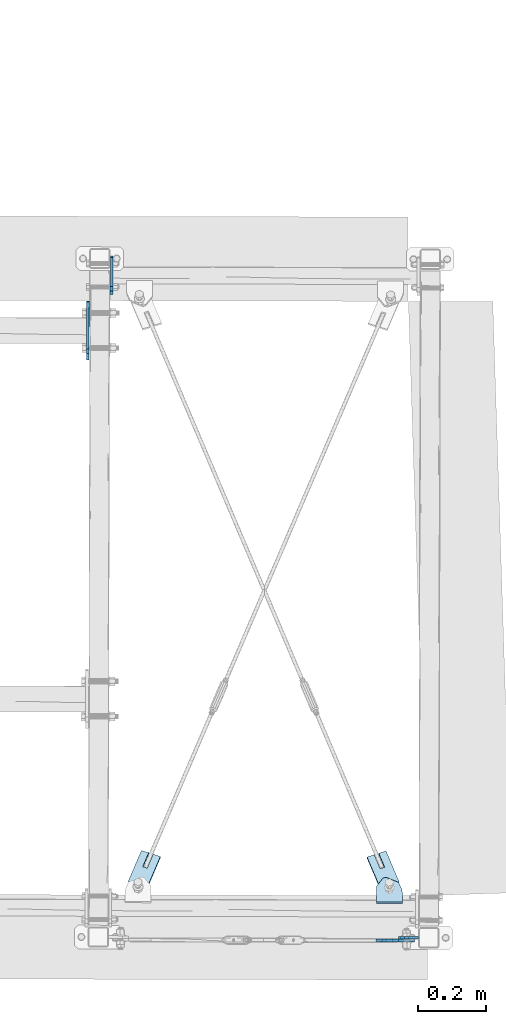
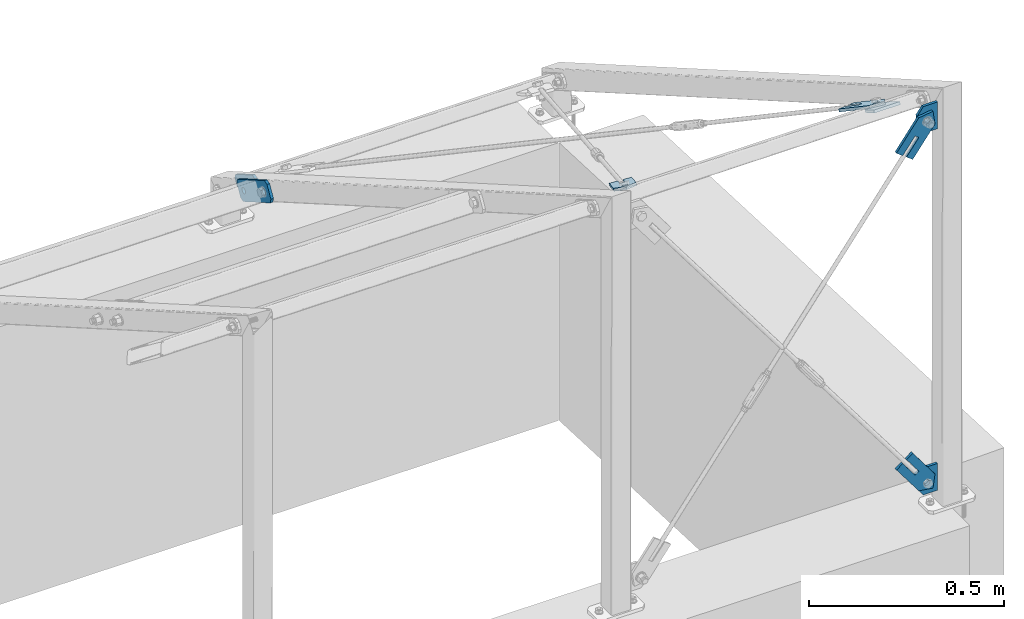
# One storey, part 44 of 288: 9 plates, 36 openings.
"""IFC2X3 building model written with IfcOpenShell, lengths in millimetres."""

from ifc_helpers import new_model, entity, si_unit, converted_unit, point, frame, frame_2d, origin, origin_with_axes, origin_2d_with_axis, place, context, project, spatial, polyline, circle_curve, line_curve, trimmed, segment, composite_curve, circle, outline, extrude, material, layer, layer_set, element, save


model = new_model("IFC2X3")

# Units and contexts
model_context = context("Model", 3, precision=1e-09, world=origin_with_axes())
ifc_project = project(units=[si_unit("LENGTHUNIT", "METRE", prefix="MILLI"), si_unit("AREAUNIT", "SQUARE_METRE"), si_unit("VOLUMEUNIT", "CUBIC_METRE"), converted_unit("PLANEANGLEUNIT", "DEGREE", entity("IfcPlaneAngleMeasure", 0.01745329), si_unit("PLANEANGLEUNIT", "RADIAN"), dimensions=[0, 0, 0, 0, 0, 0, 0])], contexts=[model_context])

# Site, building, storey
site_placement = place(None, origin_with_axes())
site = spatial("IfcSite", under=ifc_project, at=site_placement, Name="Remont ?wietlik?w nad MC w NCPP w Opolu", CompositionType="ELEMENT")
building_placement = place(site_placement, origin_with_axes())
building = spatial("IfcBuilding", under=site, at=building_placement, Name="Konstrukcja 1", CompositionType="ELEMENT")
storey_placement = place(building_placement, origin_with_axes())
storey = spatial("IfcBuildingStorey", under=building, at=storey_placement, Name="Default Storey", CompositionType="ELEMENT", Elevation=0.0)

# Plate, openings
ifc_material = material(Name="S235")
ifc_layer = layer(ifc_material, 8.0)
ifc_layer_set = layer_set([ifc_layer], Name="S235")
plate_1_placement = place(None, frame((10150.475714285, 1750.265588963, 151.0081299), z_axis=(0.999997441, -0.002262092, 1.05e-07), x_axis=(0.001959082, 0.866023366, -0.499999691)))
plate_1 = element("IfcPlate", 1, at=plate_1_placement, inside=storey, material=ifc_layer_set, Name="-", ObjectType="-", context=model_context, shape_type="SweptSolid", body=[
    extrude(outline(polyline([(0.0, 0.0), (120.0, 0.0), (120.0, 40.0), (0.0, 40.0), (0.0, 0.0)])), origin_with_axes(), (0.0, 0.0, 1.0), 8.0),
])
opening_1_placement = place(plate_1_placement, frame((0.0, 0.0, -0.01), z_axis=(0.0, 0.0, 1.0), x_axis=(1.0, 0.0, 0.0)))
element("IfcOpeningElement", 2, at=opening_1_placement, cuts=plate_1, ObjectType="Opening", context=model_context, shape_type="SweptSolid", body=[
    extrude(outline(composite_curve([segment(trimmed(line_curve((0.0, 40.0), (0.0, -1.0), 10.0), [point((0.0, 40.0))], [point((0.0, 30.0))], True, "CARTESIAN"), True, "CONTINUOUS"), segment(trimmed(circle_curve(frame_2d((10.0, 30.0), x_axis=(-1.0, 0.0)), 10.0), [point((0.0, 30.0))], [point((10.0, 40.0))], False, "CARTESIAN"), True, "CONTINUOUS"), segment(trimmed(line_curve((10.0, 40.0), (-1.0, 0.0), 10.0), [point((10.0, 40.0))], [point((0.0, 40.0))], True, "CARTESIAN"), True, "CONTINUOUS")], self_intersect=False)), origin(), (0.0, 0.0, 1.0), 8.02),
])
opening_2_placement = place(plate_1_placement, frame((0.0, 0.0, -0.01), z_axis=(0.0, 0.0, 1.0), x_axis=(1.0, 0.0, 0.0)))
element("IfcOpeningElement", 3, at=opening_2_placement, cuts=plate_1, ObjectType="Opening", context=model_context, shape_type="SweptSolid", body=[
    extrude(outline(composite_curve([segment(trimmed(line_curve((0.0, 0.0), (1.0, 0.0), 10.0), [point((0.0, 0.0))], [point((10.0, 0.0))], True, "CARTESIAN"), True, "CONTINUOUS"), segment(trimmed(circle_curve(frame_2d((10.0, 10.0), x_axis=(-1.0, 0.0)), 10.0), [point((10.0, 0.0))], [point((0.0, 10.0))], False, "CARTESIAN"), True, "CONTINUOUS"), segment(trimmed(line_curve((0.0, 10.0), (0.0, -1.0), 10.0), [point((0.0, 10.0))], [point((0.0, 0.0))], True, "CARTESIAN"), True, "CONTINUOUS")], self_intersect=False)), origin(), (0.0, 0.0, 1.0), 8.02),
])
opening_3_placement = place(plate_1_placement, frame((0.0, 0.0, -0.01), z_axis=(0.0, 0.0, 1.0), x_axis=(1.0, 0.0, 0.0)))
element("IfcOpeningElement", 4, at=opening_3_placement, cuts=plate_1, ObjectType="Opening", context=model_context, shape_type="SweptSolid", body=[
    extrude(outline(composite_curve([segment(trimmed(line_curve((120.0, 40.0), (-1.0, 0.0), 10.0), [point((120.0, 40.0))], [point((110.0, 40.0))], True, "CARTESIAN"), True, "CONTINUOUS"), segment(trimmed(circle_curve(frame_2d((110.0, 30.0), x_axis=(-1.0, 0.0)), 10.0), [point((110.0, 40.0))], [point((120.0, 30.0))], False, "CARTESIAN"), True, "CONTINUOUS"), segment(trimmed(line_curve((120.0, 30.0), (0.0, 1.0), 10.0), [point((120.0, 30.0))], [point((120.0, 40.0))], True, "CARTESIAN"), True, "CONTINUOUS")], self_intersect=False)), origin(), (0.0, 0.0, 1.0), 8.02),
])
opening_4_placement = place(plate_1_placement, frame((0.0, 0.0, -0.01), z_axis=(0.0, 0.0, 1.0), x_axis=(1.0, 0.0, 0.0)))
element("IfcOpeningElement", 5, at=opening_4_placement, cuts=plate_1, ObjectType="Opening", context=model_context, shape_type="SweptSolid", body=[
    extrude(outline(composite_curve([segment(trimmed(line_curve((120.0, 0.0), (0.0, 1.0), 10.0), [point((120.0, 0.0))], [point((120.0, 10.0))], True, "CARTESIAN"), True, "CONTINUOUS"), segment(trimmed(circle_curve(frame_2d((110.0, 10.0), x_axis=(-1.0, 0.0)), 10.0), [point((120.0, 10.0))], [point((110.0, 0.0))], False, "CARTESIAN"), True, "CONTINUOUS"), segment(trimmed(line_curve((110.0, 0.0), (1.0, 0.0), 10.0), [point((110.0, 0.0))], [point((120.0, 0.0))], True, "CARTESIAN"), True, "CONTINUOUS")], self_intersect=False)), origin(), (0.0, 0.0, 1.0), 8.02),
])
opening_5_placement = place(plate_1_placement, frame((60.0, 20.0, 8.5), z_axis=(0.0, 0.0, -1.0), x_axis=(-1.0, 0.0, 0.0)))
element("IfcOpeningElement", 6, at=opening_5_placement, cuts=plate_1, ObjectType="Opening", context=model_context, shape_type="SweptSolid", body=[
    extrude(circle(Radius=7.001, at=frame_2d((40.0, 0.0), x_axis=(1.0, 0.0))), origin(), (0.0, 0.0, 1.0), 9.0),
])
opening_6_placement = place(plate_1_placement, frame((60.0, 20.0, 8.5), z_axis=(0.0, 0.0, -1.0), x_axis=(-1.0, 0.0, 0.0)))
element("IfcOpeningElement", 7, at=opening_6_placement, cuts=plate_1, ObjectType="Opening", context=model_context, shape_type="SweptSolid", body=[
    extrude(circle(Radius=7.001, at=frame_2d((-40.0, 0.0), x_axis=(1.0, 0.0))), origin(), (0.0, 0.0, 1.0), 9.0),
])

plate_2_placement = place(None, frame((10080.034570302, 1586.020162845, 304.944274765), z_axis=(-0.999997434, 0.001134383, -0.001960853), x_axis=(0.001962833, 0.86602336, -0.499999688)))
plate_2 = element("IfcPlate", 8, at=plate_2_placement, inside=storey, material=ifc_layer_set, Name="-", ObjectType="-", context=model_context, shape_type="SweptSolid", body=[
    extrude(outline(polyline([(0.0, 0.0), (180.0, 0.0), (180.0, 60.0), (0.0, 60.0), (0.0, 0.0)])), origin_with_axes(), (0.0, 0.0, -1.0), 8.0),
])
opening_7_placement = place(plate_2_placement, frame((0.0, 0.0, 0.01), z_axis=(0.0, 0.0, 1.0), x_axis=(1.0, 0.0, 0.0)))
element("IfcOpeningElement", 9, at=opening_7_placement, cuts=plate_2, ObjectType="Opening", context=model_context, shape_type="SweptSolid", body=[
    extrude(outline(composite_curve([segment(trimmed(line_curve((0.0, 0.0), (1.0, 0.0), 10.0), [point((0.0, 0.0))], [point((10.0, 0.0))], True, "CARTESIAN"), True, "CONTINUOUS"), segment(trimmed(circle_curve(frame_2d((10.0, 10.0), x_axis=(-1.0, 0.0)), 10.0), [point((10.0, 0.0))], [point((0.0, 10.0))], False, "CARTESIAN"), True, "CONTINUOUS"), segment(trimmed(line_curve((0.0, 10.0), (0.0, -1.0), 10.0), [point((0.0, 10.0))], [point((0.0, 0.0))], True, "CARTESIAN"), True, "CONTINUOUS")], self_intersect=False)), origin(), (0.0, 0.0, -1.0), 8.02),
])
opening_8_placement = place(plate_2_placement, frame((0.0, 60.0, 0.01), z_axis=(0.0, 0.0, 1.0), x_axis=(0.0, -1.0, 0.0)))
element("IfcOpeningElement", 10, at=opening_8_placement, cuts=plate_2, ObjectType="Opening", context=model_context, shape_type="SweptSolid", body=[
    extrude(outline(composite_curve([segment(trimmed(line_curve((0.0, 0.0), (1.0, 0.0), 10.0), [point((0.0, 0.0))], [point((10.0, 0.0))], True, "CARTESIAN"), True, "CONTINUOUS"), segment(trimmed(circle_curve(frame_2d((10.0, 10.0), x_axis=(-1.0, 0.0)), 10.0), [point((10.0, 0.0))], [point((0.0, 10.0))], False, "CARTESIAN"), True, "CONTINUOUS"), segment(trimmed(line_curve((0.0, 10.0), (0.0, -1.0), 10.0), [point((0.0, 10.0))], [point((0.0, 0.0))], True, "CARTESIAN"), True, "CONTINUOUS")], self_intersect=False)), origin(), (0.0, 0.0, -1.0), 8.02),
])
opening_9_placement = place(plate_2_placement, frame((180.0, 0.0, 0.01), z_axis=(0.0, 0.0, 1.0), x_axis=(0.0, 1.0, 0.0)))
element("IfcOpeningElement", 11, at=opening_9_placement, cuts=plate_2, ObjectType="Opening", context=model_context, shape_type="SweptSolid", body=[
    extrude(outline(composite_curve([segment(trimmed(line_curve((0.0, 0.0), (1.0, 0.0), 10.0), [point((0.0, 0.0))], [point((10.0, 0.0))], True, "CARTESIAN"), True, "CONTINUOUS"), segment(trimmed(circle_curve(frame_2d((10.0, 10.0), x_axis=(-1.0, 0.0)), 10.0), [point((10.0, 0.0))], [point((0.0, 10.0))], False, "CARTESIAN"), True, "CONTINUOUS"), segment(trimmed(line_curve((0.0, 10.0), (0.0, -1.0), 10.0), [point((0.0, 10.0))], [point((0.0, 0.0))], True, "CARTESIAN"), True, "CONTINUOUS")], self_intersect=False)), origin(), (0.0, 0.0, -1.0), 8.02),
])
opening_10_placement = place(plate_2_placement, frame((180.0, 60.0, 0.01), z_axis=(0.0, 0.0, 1.0), x_axis=(-1.0, 0.0, 0.0)))
element("IfcOpeningElement", 12, at=opening_10_placement, cuts=plate_2, ObjectType="Opening", context=model_context, shape_type="SweptSolid", body=[
    extrude(outline(composite_curve([segment(trimmed(line_curve((0.0, 0.0), (1.0, 0.0), 10.0), [point((0.0, 0.0))], [point((10.0, 0.0))], True, "CARTESIAN"), True, "CONTINUOUS"), segment(trimmed(circle_curve(frame_2d((10.0, 10.0), x_axis=(-1.0, 0.0)), 10.0), [point((10.0, 0.0))], [point((0.0, 10.0))], False, "CARTESIAN"), True, "CONTINUOUS"), segment(trimmed(line_curve((0.0, 10.0), (0.0, -1.0), 10.0), [point((0.0, 10.0))], [point((0.0, 0.0))], True, "CARTESIAN"), True, "CONTINUOUS")], self_intersect=False)), origin(), (0.0, 0.0, -1.0), 8.02),
])
opening_11_placement = place(plate_2_placement, frame((90.0, 30.0, -8.5), z_axis=(0.0, 0.0, 1.0), x_axis=(-1.0, 0.0, 0.0)))
element("IfcOpeningElement", 13, at=opening_11_placement, cuts=plate_2, ObjectType="Opening", context=model_context, shape_type="SweptSolid", body=[
    extrude(circle(Radius=9.001, at=frame_2d((60.0, 0.0), x_axis=(1.0, 0.0))), origin(), (0.0, 0.0, 1.0), 9.0),
])
opening_12_placement = place(plate_2_placement, frame((90.0, 30.0, -8.5), z_axis=(0.0, 0.0, 1.0), x_axis=(-1.0, 0.0, 0.0)))
element("IfcOpeningElement", 14, at=opening_12_placement, cuts=plate_2, ObjectType="Opening", context=model_context, shape_type="SweptSolid", body=[
    extrude(circle(Radius=9.001, at=frame_2d((-60.0, 0.0), x_axis=(1.0, 0.0))), origin(), (0.0, 0.0, 1.0), 9.0),
])

plate_3_placement = place(None, frame((10938.205478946, -153.66082984, 1149.786149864), z_axis=(-0.002246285, -0.999997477, 0.0), x_axis=(0.800610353, -0.001798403, -0.599182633)))
plate_3 = element("IfcPlate", 15, at=plate_3_placement, inside=storey, material=ifc_layer_set, Name="Tab_Plate#2", ObjectType="Tab_Plate#2", context=model_context, shape_type="SweptSolid", body=[
    extrude(outline(polyline([(0.0, 0.0), (60.0, 0.0), (60.0, 140.0), (0.0, 140.0), (0.0, 0.0)])), origin_with_axes(), (0.0, 0.0, 1.0), 8.0),
])
opening_13_placement = place(plate_3_placement, frame((0.0, 0.0, -0.01), z_axis=(0.0, 0.0, 1.0), x_axis=(1.0, 0.0, 0.0)))
element("IfcOpeningElement", 16, at=opening_13_placement, cuts=plate_3, ObjectType="Opening", context=model_context, shape_type="SweptSolid", body=[
    extrude(outline(composite_curve([segment(trimmed(line_curve((60.0, 140.0), (-1.0, 0.0), 30.0), [point((60.0, 140.0))], [point((30.0, 140.0))], True, "CARTESIAN"), True, "CONTINUOUS"), segment(trimmed(circle_curve(frame_2d((30.0, 110.0), x_axis=(-1.0, 0.0)), 30.0), [point((30.0, 140.0))], [point((60.0, 110.0))], False, "CARTESIAN"), True, "CONTINUOUS"), segment(trimmed(line_curve((60.0, 110.0), (0.0, 1.0), 30.0), [point((60.0, 110.0))], [point((60.0, 140.0))], True, "CARTESIAN"), True, "CONTINUOUS")], self_intersect=False)), origin(), (0.0, 0.0, 1.0), 8.02),
])
opening_14_placement = place(plate_3_placement, frame((0.0, 0.0, -0.01), z_axis=(0.0, 0.0, 1.0), x_axis=(1.0, 0.0, 0.0)))
element("IfcOpeningElement", 17, at=opening_14_placement, cuts=plate_3, ObjectType="Opening", context=model_context, shape_type="SweptSolid", body=[
    extrude(outline(composite_curve([segment(trimmed(line_curve((0.0, 140.0), (0.0, -1.0), 30.0), [point((0.0, 140.0))], [point((0.0, 110.0))], True, "CARTESIAN"), True, "CONTINUOUS"), segment(trimmed(circle_curve(frame_2d((30.0, 110.0), x_axis=(-1.0, 0.0)), 30.0), [point((0.0, 110.0))], [point((30.0, 140.0))], False, "CARTESIAN"), True, "CONTINUOUS"), segment(trimmed(line_curve((30.0, 140.0), (-1.0, 0.0), 30.0), [point((30.0, 140.0))], [point((0.0, 140.0))], True, "CARTESIAN"), True, "CONTINUOUS")], self_intersect=False)), origin(), (0.0, 0.0, 1.0), 8.02),
])
opening_15_placement = place(plate_3_placement, frame((0.0, 0.0, 8.1), z_axis=(0.0, 0.0, -1.0), x_axis=(-0.800612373, -0.599182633, 0.0)))
element("IfcOpeningElement", 18, at=opening_15_placement, cuts=plate_3, ObjectType="Opening", context=model_context, shape_type="SweptSolid", body=[
    extrude(outline(polyline([(-54.964023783, 35.057553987), (-66.174198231, 26.667798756), (-29.622859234, -22.171157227), (-18.412684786, -13.781401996), (-54.964023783, 35.057553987)])), origin(), (0.0, 0.0, 1.0), 8.2),
])
opening_16_placement = place(plate_3_placement, frame((30.0, 110.0, 8.5), z_axis=(0.0, 0.0, -1.0), x_axis=(0.0, -1.0, 0.0)))
element("IfcOpeningElement", 19, at=opening_16_placement, cuts=plate_3, ObjectType="Opening", context=model_context, shape_type="SweptSolid", body=[
    extrude(circle(Radius=9.001, at=origin_2d_with_axis()), origin(), (0.0, 0.0, 1.0), 9.0),
])

plate_4_placement = place(None, frame((11034.17658987, -153.876408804, 1177.884181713), z_axis=(0.002246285, 0.999997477, 0.0), x_axis=(-0.800610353, 0.001798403, 0.599182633)))
plate_4 = element("IfcPlate", 20, at=plate_4_placement, inside=storey, material=ifc_layer_set, Name="Gusset#2", ObjectType="Gusset#2", context=model_context, shape_type="SweptSolid", body=[
    extrude(outline(polyline([(0.0, 0.0), (60.0, 0.0), (60.0, 60.0), (26.379153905, 85.162023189), (-23.944817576, 17.920431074), (0.0, 0.0)])), origin_with_axes(), (0.0, 0.0, 1.0), 8.0),
])
opening_17_placement = place(plate_4_placement, frame((30.0, 30.0, -0.5), z_axis=(0.0, 0.0, 1.0), x_axis=(0.0, -1.0, 0.0)))
element("IfcOpeningElement", 21, at=opening_17_placement, cuts=plate_4, ObjectType="Opening", context=model_context, shape_type="SweptSolid", body=[
    extrude(circle(Radius=9.001, at=origin_2d_with_axis()), origin(), (0.0, 0.0, 1.0), 9.0),
])
opening_18_placement = place(plate_4_placement, frame((0.0, 0.0, -0.01), z_axis=(0.0, 0.0, 1.0), x_axis=(1.0, 0.0, 0.0)))
element("IfcOpeningElement", 22, at=opening_18_placement, cuts=plate_4, ObjectType="Opening", context=model_context, shape_type="SweptSolid", body=[
    extrude(outline(composite_curve([segment(trimmed(line_curve((60.0, 0.0), (0.0, 1.0), 30.0), [point((60.0, 0.0))], [point((60.0, 30.0))], True, "CARTESIAN"), True, "CONTINUOUS"), segment(trimmed(circle_curve(frame_2d((30.0, 30.0), x_axis=(-1.0, 0.0)), 30.0), [point((60.0, 30.0))], [point((30.0, 0.0))], False, "CARTESIAN"), True, "CONTINUOUS"), segment(trimmed(line_curve((30.0, 0.0), (1.0, 0.0), 30.0), [point((30.0, 0.0))], [point((60.0, 0.0))], True, "CARTESIAN"), True, "CONTINUOUS")], self_intersect=False)), origin(), (0.0, 0.0, 1.0), 8.02),
])

plate_5_placement = place(None, frame((10938.187360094, -161.671233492, 158.213850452), z_axis=(0.002277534, 0.999997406, 0.0), x_axis=(0.800610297, -0.001823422, 0.599182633)))
plate_5 = element("IfcPlate", 23, at=plate_5_placement, inside=storey, material=ifc_layer_set, Name="Tab_Plate#1", ObjectType="Tab_Plate#1", context=model_context, shape_type="SweptSolid", body=[
    extrude(outline(polyline([(0.0, 0.0), (60.0, 0.0), (60.0, 140.0), (0.0, 140.0), (0.0, 0.0)])), origin_with_axes(), (0.0, 0.0, 1.0), 8.0),
])
opening_19_placement = place(plate_5_placement, frame((0.0, 0.0, -0.01), z_axis=(0.0, 0.0, 1.0), x_axis=(1.0, 0.0, 0.0)))
element("IfcOpeningElement", 24, at=opening_19_placement, cuts=plate_5, ObjectType="Opening", context=model_context, shape_type="SweptSolid", body=[
    extrude(outline(composite_curve([segment(trimmed(line_curve((60.0, 140.0), (-1.0, 0.0), 30.0), [point((60.0, 140.0))], [point((30.0, 140.0))], True, "CARTESIAN"), True, "CONTINUOUS"), segment(trimmed(circle_curve(frame_2d((30.0, 110.0), x_axis=(-1.0, 0.0)), 30.0), [point((30.0, 140.0))], [point((60.0, 110.0))], False, "CARTESIAN"), True, "CONTINUOUS"), segment(trimmed(line_curve((60.0, 110.0), (0.0, 1.0), 30.0), [point((60.0, 110.0))], [point((60.0, 140.0))], True, "CARTESIAN"), True, "CONTINUOUS")], self_intersect=False)), origin(), (0.0, 0.0, 1.0), 8.02),
])
opening_20_placement = place(plate_5_placement, frame((0.0, 0.0, -0.01), z_axis=(0.0, 0.0, 1.0), x_axis=(1.0, 0.0, 0.0)))
element("IfcOpeningElement", 25, at=opening_20_placement, cuts=plate_5, ObjectType="Opening", context=model_context, shape_type="SweptSolid", body=[
    extrude(outline(composite_curve([segment(trimmed(line_curve((0.0, 140.0), (0.0, -1.0), 30.0), [point((0.0, 140.0))], [point((0.0, 110.0))], True, "CARTESIAN"), True, "CONTINUOUS"), segment(trimmed(circle_curve(frame_2d((30.0, 110.0), x_axis=(-1.0, 0.0)), 30.0), [point((0.0, 110.0))], [point((30.0, 140.0))], False, "CARTESIAN"), True, "CONTINUOUS"), segment(trimmed(line_curve((30.0, 140.0), (-1.0, 0.0), 30.0), [point((30.0, 140.0))], [point((0.0, 140.0))], True, "CARTESIAN"), True, "CONTINUOUS")], self_intersect=False)), origin(), (0.0, 0.0, 1.0), 8.02),
])
opening_21_placement = place(plate_5_placement, frame((0.0, 0.0, 8.1), z_axis=(0.0, 0.0, -1.0), x_axis=(0.800612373, 0.599182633, 0.0)))
element("IfcOpeningElement", 26, at=opening_21_placement, cuts=plate_5, ObjectType="Opening", context=model_context, shape_type="SweptSolid", body=[
    extrude(outline(polyline([(54.964023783, -35.057553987), (66.174198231, -26.667798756), (29.622859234, 22.171157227), (18.412684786, 13.781401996), (54.964023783, -35.057553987)])), origin(), (0.0, 0.0, 1.0), 8.2),
])
opening_22_placement = place(plate_5_placement, frame((30.0, 110.0, 8.5), z_axis=(0.0, 0.0, -1.0), x_axis=(0.0, -1.0, 0.0)))
element("IfcOpeningElement", 27, at=opening_22_placement, cuts=plate_5, ObjectType="Opening", context=model_context, shape_type="SweptSolid", body=[
    extrude(circle(Radius=9.001, at=origin_2d_with_axis()), origin(), (0.0, 0.0, 1.0), 9.0),
])

plate_6_placement = place(None, frame((11034.194904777, -145.889853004, 130.115818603), z_axis=(-0.002277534, -0.999997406, 0.0), x_axis=(-0.800610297, 0.001823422, -0.599182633)))
plate_6 = element("IfcPlate", 28, at=plate_6_placement, inside=storey, material=ifc_layer_set, Name="Gusset#1", ObjectType="Gusset#1", context=model_context, shape_type="SweptSolid", body=[
    extrude(outline(polyline([(0.0, 0.0), (60.0, 0.0), (60.0, 60.0), (26.379354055, 85.161873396), (-23.944617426, 17.920281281), (0.0, 0.0)])), origin_with_axes(), (0.0, 0.0, 1.0), 8.0),
])
opening_23_placement = place(plate_6_placement, frame((30.0, 30.0, -0.5), z_axis=(0.0, 0.0, 1.0), x_axis=(0.0, -1.0, 0.0)))
element("IfcOpeningElement", 29, at=opening_23_placement, cuts=plate_6, ObjectType="Opening", context=model_context, shape_type="SweptSolid", body=[
    extrude(circle(Radius=9.001, at=origin_2d_with_axis()), origin(), (0.0, 0.0, 1.0), 9.0),
])
opening_24_placement = place(plate_6_placement, frame((0.0, 0.0, -0.01), z_axis=(0.0, 0.0, 1.0), x_axis=(1.0, 0.0, 0.0)))
element("IfcOpeningElement", 30, at=opening_24_placement, cuts=plate_6, ObjectType="Opening", context=model_context, shape_type="SweptSolid", body=[
    extrude(outline(composite_curve([segment(trimmed(line_curve((60.0, 0.0), (0.0, 1.0), 30.0), [point((60.0, 0.0))], [point((60.0, 30.0))], True, "CARTESIAN"), True, "CONTINUOUS"), segment(trimmed(circle_curve(frame_2d((30.0, 30.0), x_axis=(-1.0, 0.0)), 30.0), [point((60.0, 30.0))], [point((30.0, 0.0))], False, "CARTESIAN"), True, "CONTINUOUS"), segment(trimmed(line_curve((30.0, 0.0), (1.0, 0.0), 30.0), [point((30.0, 0.0))], [point((60.0, 0.0))], True, "CARTESIAN"), True, "CONTINUOUS")], self_intersect=False)), origin(), (0.0, 0.0, 1.0), 8.02),
])

plate_7_placement = place(None, frame((10243.045135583, 108.908656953, 1135.472697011), z_axis=(-0.001127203, -0.499998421, -0.866025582), x_axis=(0.937108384, -0.302803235, 0.173603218)))
plate_7 = element("IfcPlate", 31, at=plate_7_placement, inside=storey, material=ifc_layer_set, Name="Tab_Plate#1", ObjectType="Tab_Plate#1", context=model_context, shape_type="SweptSolid", body=[
    extrude(outline(polyline([(0.0, 0.0), (60.0, 0.0), (60.0, 140.0), (0.0, 140.0), (0.0, 0.0)])), origin_with_axes(), (0.0, 0.0, 1.0), 8.0),
])
opening_25_placement = place(plate_7_placement, frame((0.0, 0.0, -0.01), z_axis=(0.0, 0.0, 1.0), x_axis=(1.0, 0.0, 0.0)))
element("IfcOpeningElement", 32, at=opening_25_placement, cuts=plate_7, ObjectType="Opening", context=model_context, shape_type="SweptSolid", body=[
    extrude(outline(composite_curve([segment(trimmed(line_curve((60.0, 140.0), (-1.0, 0.0), 30.0), [point((60.0, 140.0))], [point((30.0, 140.0))], True, "CARTESIAN"), True, "CONTINUOUS"), segment(trimmed(circle_curve(frame_2d((30.0, 110.0), x_axis=(-1.0, 0.0)), 30.0), [point((30.0, 140.0))], [point((60.0, 110.0))], False, "CARTESIAN"), True, "CONTINUOUS"), segment(trimmed(line_curve((60.0, 110.0), (0.0, 1.0), 30.0), [point((60.0, 110.0))], [point((60.0, 140.0))], True, "CARTESIAN"), True, "CONTINUOUS")], self_intersect=False)), origin(), (0.0, 0.0, 1.0), 8.02),
])
opening_26_placement = place(plate_7_placement, frame((0.0, 0.0, -0.01), z_axis=(0.0, 0.0, 1.0), x_axis=(1.0, 0.0, 0.0)))
element("IfcOpeningElement", 33, at=opening_26_placement, cuts=plate_7, ObjectType="Opening", context=model_context, shape_type="SweptSolid", body=[
    extrude(outline(composite_curve([segment(trimmed(line_curve((0.0, 140.0), (0.0, -1.0), 30.0), [point((0.0, 140.0))], [point((0.0, 110.0))], True, "CARTESIAN"), True, "CONTINUOUS"), segment(trimmed(circle_curve(frame_2d((30.0, 110.0), x_axis=(-1.0, 0.0)), 30.0), [point((0.0, 110.0))], [point((30.0, 140.0))], False, "CARTESIAN"), True, "CONTINUOUS"), segment(trimmed(line_curve((30.0, 140.0), (-1.0, 0.0), 30.0), [point((30.0, 140.0))], [point((0.0, 140.0))], True, "CARTESIAN"), True, "CONTINUOUS")], self_intersect=False)), origin(), (0.0, 0.0, 1.0), 8.02),
])
opening_27_placement = place(plate_7_placement, frame((0.0, 0.0, 8.1), z_axis=(0.0, 0.0, -1.0), x_axis=(-0.937788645, 0.34720665, 0.0)))
element("IfcOpeningElement", 34, at=opening_27_placement, cuts=plate_7, ObjectType="Opening", context=model_context, shape_type="SweptSolid", body=[
    extrude(outline(polyline([(-3.8603147, 55.813564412), (-16.991231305, 60.675151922), (-34.699464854, 12.846055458), (-21.568548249, 7.984467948), (-3.8603147, 55.813564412)])), origin(), (0.0, 0.0, 1.0), 8.2),
])
opening_28_placement = place(plate_7_placement, frame((30.0, 110.0, 8.5), z_axis=(0.0, 0.0, -1.0), x_axis=(0.0, -1.0, 0.0)))
element("IfcOpeningElement", 35, at=opening_28_placement, cuts=plate_7, ObjectType="Opening", context=model_context, shape_type="SweptSolid", body=[
    extrude(circle(Radius=9.001, at=origin_2d_with_axis()), origin(), (0.0, 0.0, 1.0), 9.0),
])

plate_8_placement = place(None, frame((10967.3828551, 103.271484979, 1128.546921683), z_axis=(0.001127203, 0.499998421, 0.866025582), x_axis=(-0.938468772, -0.298564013, 0.173596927)))
plate_8 = element("IfcPlate", 36, at=plate_8_placement, inside=storey, material=ifc_layer_set, Name="Tab_Plate#1", ObjectType="Tab_Plate#1", context=model_context, shape_type="SweptSolid", body=[
    extrude(outline(polyline([(0.0, 0.0), (60.0, 0.0), (60.0, 140.0), (0.0, 140.0), (0.0, 0.0)])), origin_with_axes(), (0.0, 0.0, 1.0), 8.0),
])
opening_29_placement = place(plate_8_placement, frame((0.0, 0.0, -0.01), z_axis=(0.0, 0.0, 1.0), x_axis=(1.0, 0.0, 0.0)))
element("IfcOpeningElement", 37, at=opening_29_placement, cuts=plate_8, ObjectType="Opening", context=model_context, shape_type="SweptSolid", body=[
    extrude(outline(composite_curve([segment(trimmed(line_curve((60.0, 140.0), (-1.0, 0.0), 30.0), [point((60.0, 140.0))], [point((30.0, 140.0))], True, "CARTESIAN"), True, "CONTINUOUS"), segment(trimmed(circle_curve(frame_2d((30.0, 110.0), x_axis=(-1.0, 0.0)), 30.0), [point((30.0, 140.0))], [point((60.0, 110.0))], False, "CARTESIAN"), True, "CONTINUOUS"), segment(trimmed(line_curve((60.0, 110.0), (0.0, 1.0), 30.0), [point((60.0, 110.0))], [point((60.0, 140.0))], True, "CARTESIAN"), True, "CONTINUOUS")], self_intersect=False)), origin(), (0.0, 0.0, 1.0), 8.02),
])
opening_30_placement = place(plate_8_placement, frame((0.0, 0.0, -0.01), z_axis=(0.0, 0.0, 1.0), x_axis=(1.0, 0.0, 0.0)))
element("IfcOpeningElement", 38, at=opening_30_placement, cuts=plate_8, ObjectType="Opening", context=model_context, shape_type="SweptSolid", body=[
    extrude(outline(composite_curve([segment(trimmed(line_curve((0.0, 140.0), (0.0, -1.0), 30.0), [point((0.0, 140.0))], [point((0.0, 110.0))], True, "CARTESIAN"), True, "CONTINUOUS"), segment(trimmed(circle_curve(frame_2d((30.0, 110.0), x_axis=(-1.0, 0.0)), 30.0), [point((0.0, 110.0))], [point((30.0, 140.0))], False, "CARTESIAN"), True, "CONTINUOUS"), segment(trimmed(line_curve((30.0, 140.0), (-1.0, 0.0), 30.0), [point((30.0, 140.0))], [point((0.0, 140.0))], True, "CARTESIAN"), True, "CONTINUOUS")], self_intersect=False)), origin(), (0.0, 0.0, 1.0), 8.02),
])
opening_31_placement = place(plate_8_placement, frame((0.0, 0.0, 8.1), z_axis=(0.0, 0.0, -1.0), x_axis=(-0.937793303, 0.347194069, 0.0)))
element("IfcOpeningElement", 39, at=opening_31_placement, cuts=plate_8, ObjectType="Opening", context=model_context, shape_type="SweptSolid", body=[
    extrude(outline(polyline([(-3.861063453, 55.81351262), (-16.992045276, 60.674923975), (-34.699637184, 12.845589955), (-21.568655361, 7.9841786), (-3.861063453, 55.81351262)])), origin(), (0.0, 0.0, 1.0), 8.2),
])
opening_32_placement = place(plate_8_placement, frame((30.0, 119.001, -0.5), z_axis=(0.0, 0.0, -1.0), x_axis=(-1.0, 0.0, 0.0)))
element("IfcOpeningElement", 40, at=opening_32_placement, cuts=plate_8, ObjectType="Opening", context=model_context, shape_type="SweptSolid", body=[
    extrude(circle(Radius=9.001, at=frame_2d((0.0, -9.001), x_axis=(1.0, 0.0))), origin(), (0.0, 0.0, -1.0), 9.0),
])

plate_9_placement = place(None, frame((10938.703709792, 20.322952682, 1176.474446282), z_axis=(-0.001127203, -0.499998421, -0.866025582), x_axis=(0.938468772, 0.298564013, -0.173596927)))
plate_9 = element("IfcPlate", 41, at=plate_9_placement, inside=storey, material=ifc_layer_set, Name="Gusset#1", ObjectType="Gusset#1", context=model_context, shape_type="SweptSolid", body=[
    extrude(outline(polyline([(0.0, 0.0), (60.0, 0.0), (60.0, 60.0), (46.61551642, 96.151598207), (-25.687679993, 69.382631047), (0.0, 0.0)])), origin_with_axes(), (0.0, 0.0, 1.0), 8.0),
])
opening_33_placement = place(plate_9_placement, frame((30.0, 39.001, 8.5), z_axis=(0.0, 0.0, 1.0), x_axis=(1.0, 0.0, 0.0)))
element("IfcOpeningElement", 42, at=opening_33_placement, cuts=plate_9, ObjectType="Opening", context=model_context, shape_type="SweptSolid", body=[
    extrude(circle(Radius=9.001, at=frame_2d((0.0, -9.001), x_axis=(1.0, 0.0))), origin(), (0.0, 0.0, -1.0), 9.0),
])
opening_34_placement = place(plate_9_placement, frame((0.0, 0.0, -0.01), z_axis=(0.0, 0.0, 1.0), x_axis=(1.0, 0.0, 0.0)))
element("IfcOpeningElement", 43, at=opening_34_placement, cuts=plate_9, ObjectType="Opening", context=model_context, shape_type="SweptSolid", body=[
    extrude(outline(composite_curve([segment(trimmed(line_curve((0.0, 0.0), (1.0, 0.0), 20.883106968), [point((0.0, 0.0))], [point((20.883106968, 0.0))], True, "CARTESIAN"), True, "CONTINUOUS"), segment(trimmed(circle_curve(frame_2d((20.883106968, 30.0), x_axis=(-1.0, 0.0)), 30.0), [point((20.883106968, 0.0))], [point((-7.250622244, 19.583989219))], False, "CARTESIAN"), True, "CONTINUOUS"), segment(trimmed(line_curve((-7.250622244, 19.583989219), (0.347200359, -0.937790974), 20.883106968), [point((-7.250622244, 19.583989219))], [point((0.0, 0.0))], True, "CARTESIAN"), True, "CONTINUOUS")], self_intersect=False)), origin(), (0.0, 0.0, 1.0), 8.02),
])
opening_35_placement = place(plate_9_placement, frame((0.0, 0.0, -0.01), z_axis=(0.0, 0.0, 1.0), x_axis=(1.0, 0.0, 0.0)))
element("IfcOpeningElement", 44, at=opening_35_placement, cuts=plate_9, ObjectType="Opening", context=model_context, shape_type="SweptSolid", body=[
    extrude(outline(composite_curve([segment(trimmed(line_curve((60.0, 0.0), (0.0, 1.0), 30.0), [point((60.0, 0.0))], [point((60.0, 30.0))], True, "CARTESIAN"), True, "CONTINUOUS"), segment(trimmed(circle_curve(frame_2d((30.0, 30.0), x_axis=(-1.0, 0.0)), 30.0), [point((60.0, 30.0))], [point((30.0, 0.0))], False, "CARTESIAN"), True, "CONTINUOUS"), segment(trimmed(line_curve((30.0, 0.0), (1.0, 0.0), 30.0), [point((30.0, 0.0))], [point((60.0, 0.0))], True, "CARTESIAN"), True, "CONTINUOUS")], self_intersect=False)), origin(), (0.0, 0.0, 1.0), 8.02),
])
opening_36_placement = place(plate_9_placement, frame((0.0, 0.0, -0.01), z_axis=(0.0, 0.0, 1.0), x_axis=(1.0, 0.0, 0.0)))
element("IfcOpeningElement", 45, at=opening_36_placement, cuts=plate_9, ObjectType="Opening", context=model_context, shape_type="SweptSolid", body=[
    extrude(outline(composite_curve([segment(trimmed(line_curve((60.0, 60.0), (-0.347200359, 0.937790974), 5.375198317), [point((60.0, 60.0))], [point((58.133729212, 65.040812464))], True, "CARTESIAN"), True, "CONTINUOUS"), segment(trimmed(circle_curve(frame_2d((30.0, 54.624801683), x_axis=(-1.0, 0.0)), 30.0), [point((58.133729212, 65.040812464))], [point((60.0, 54.624801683))], False, "CARTESIAN"), True, "CONTINUOUS"), segment(trimmed(line_curve((60.0, 54.624801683), (0.0, 1.0), 5.375198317), [point((60.0, 54.624801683))], [point((60.0, 60.0))], True, "CARTESIAN"), True, "CONTINUOUS")], self_intersect=False)), origin(), (0.0, 0.0, 1.0), 8.02),
])

save(model, "model.ifc")
